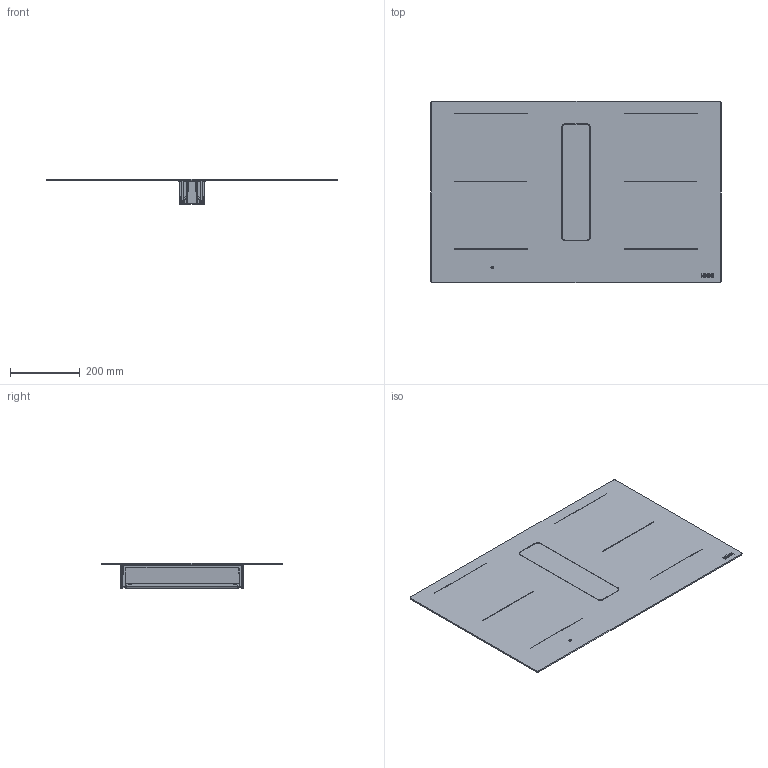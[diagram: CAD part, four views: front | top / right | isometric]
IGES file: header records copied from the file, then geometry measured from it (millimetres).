
Global section: file name: F:\_CONVERSIONE_CAD_2024_2025\PACCHETTI_2026\340.0731.786_Mythos 2gether_Slide\3D001_Hob extractors_Mythos 2gether_Slide.igs; native system: Rhinoceros ( May  6 2026 ); preprocessor: Trout Lake IGES 012 May  6 2026; date: 260609.075842; units: millimetre
Bounding box: 829.96 x 519.96 x 73.45 mm (x, y, z)
Surface area: 1151899.5 mm2 (no closed solid volume)
Topology: 0 solids, 0 shells, 2361 faces, 15152 edges, 15138 vertices
Faces by surface type: bspline 2361
